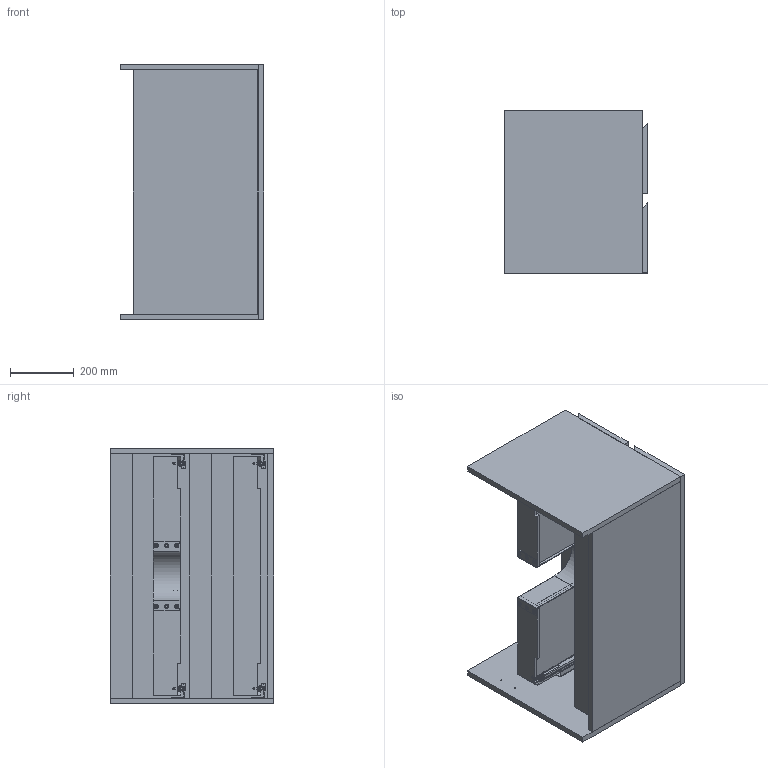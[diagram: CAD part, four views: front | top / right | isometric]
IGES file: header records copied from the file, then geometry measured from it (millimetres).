
Global section: file name: Lignum Lavabo Dolabı 3D,; native system: Autodesk Inventor 2024; preprocessor: unknown; author: pc19; date: 20240624.111929; units: millimetre
Bounding box: 450 x 510 x 800 mm (x, y, z)
Volume: 29402517.9 mm3; surface area: 4964100.4 mm2
Topology: 31 solids, 31 shells, 967 faces, 2724 edges, 1853 vertices
Faces by surface type: bspline 967
